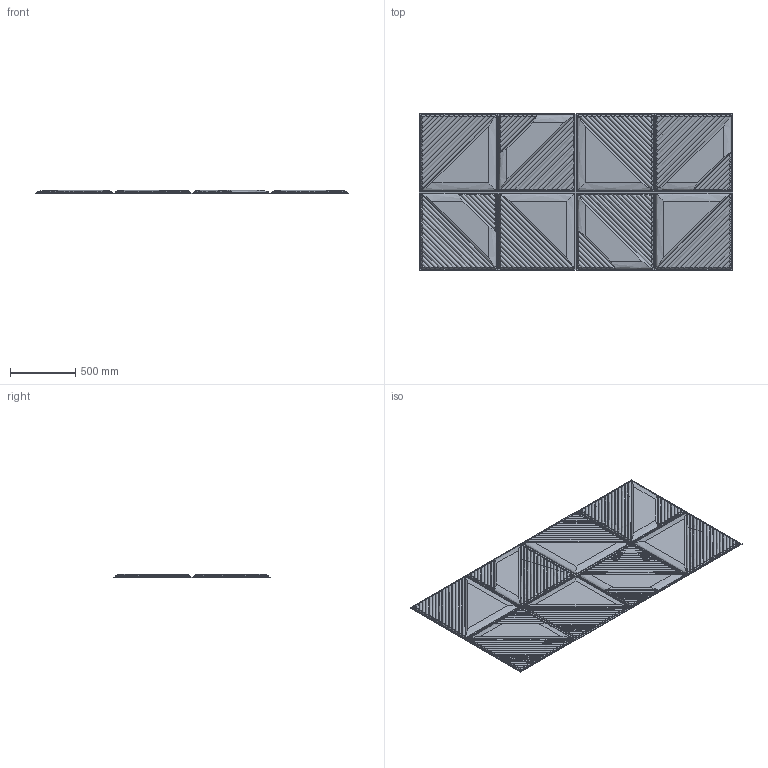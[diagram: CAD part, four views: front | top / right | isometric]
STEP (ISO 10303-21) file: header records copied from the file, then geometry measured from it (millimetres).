
FILE_DESCRIPTION(/* description */ (''),/* implementation_level */ '2;1');
FILE_NAME(/* name */ 'W MAXI',/* time_stamp */ '2022-12-22T16:17:44+01:00',/* author */ (''),/* organization */ (''),/* preprocessor_version */ 'ST-DEVELOPER v16.5',/* originating_system */ 'Rhino 7.22',/* authorisation */ '');
FILE_SCHEMA (('CONFIG_CONTROL_DESIGN'));
Length unit declared in the file: millimetre
Products named in the file (1): Document
Bounding box: 2400 x 1200 x 24.5 mm (x, y, z)
Volume: 47998890.3 mm3; surface area: 11915862.6 mm2
Topology: 2 solids, 2 shells, 544 faces, 1488 edges, 956 vertices
Faces by surface type: cylinder 236, bspline 228, plane 80
Entity records: 30680 total; most frequent: CARTESIAN_POINT 21186, ORIENTED_EDGE 2976, EDGE_CURVE 1488, B_SPLINE_CURVE_WITH_KNOTS 1188, VERTEX_POINT 956, EDGE_LOOP 552, ADVANCED_FACE 544, FACE_OUTER_BOUND 544
